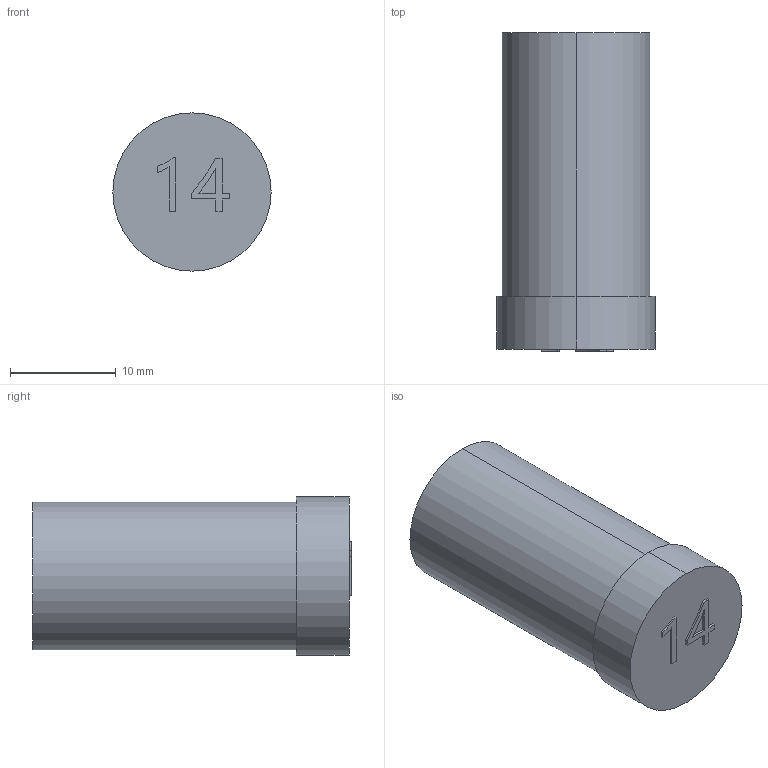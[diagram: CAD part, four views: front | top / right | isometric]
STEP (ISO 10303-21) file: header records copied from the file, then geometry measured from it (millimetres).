
FILE_DESCRIPTION (( 'STEP AP203' ), '1' );
FILE_NAME ('042887 ST14.STEP', '2023-11-23T00:56:58', ( '' ), ( '' ), 'SwSTEP 2.0', 'SolidWorks 2016', '' );
FILE_SCHEMA (( 'CONFIG_CONTROL_DESIGN' ));
Length unit declared in the file: millimetre
Products named in the file (1): 042887 ST14
Bounding box: 15 x 30.2 x 15 mm (x, y, z)
Volume: 4734.1 mm3; surface area: 1695.9 mm2
Topology: 1 solids, 1 shells, 31 faces, 75 edges, 50 vertices
Faces by surface type: plane 23, cylinder 4, bspline 4
Entity records: 1126 total; most frequent: CARTESIAN_POINT 337, ORIENTED_EDGE 150, DIRECTION 131, EDGE_CURVE 75, VECTOR 59, LINE 59, VERTEX_POINT 50, AXIS2_PLACEMENT_3D 36
